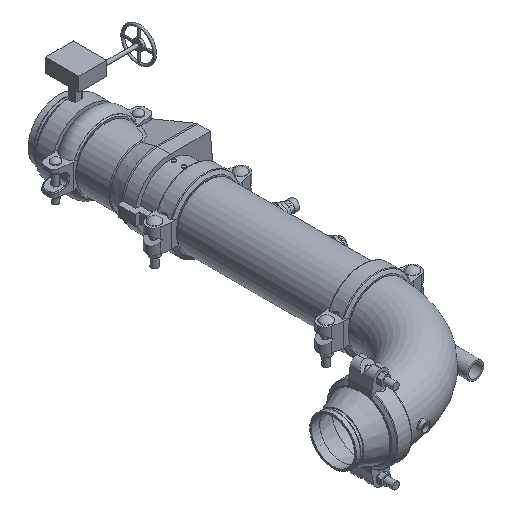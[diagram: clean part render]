
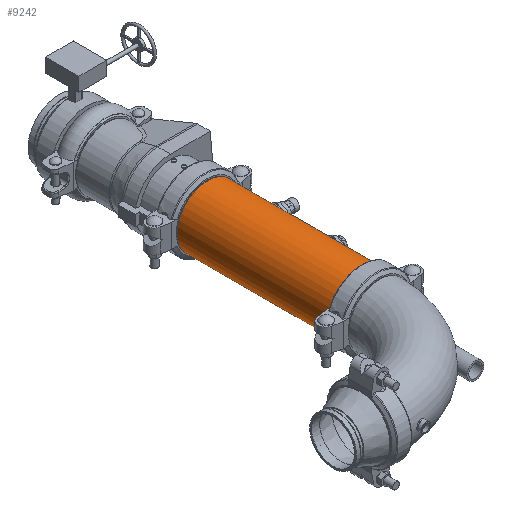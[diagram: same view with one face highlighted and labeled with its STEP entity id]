
A CAD part, isometric view. The second image highlights one B-rep face of the part: STEP entity #9242.
In plain terms, the highlighted cylindrical face has radius 109.537 mm (diameter 219.075 mm), a full revolution.
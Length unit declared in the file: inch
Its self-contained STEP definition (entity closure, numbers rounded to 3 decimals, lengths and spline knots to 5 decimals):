
#306=LINE('',#13931,#970);
#970=VECTOR('',#11093,4.3125);
#1634=CYLINDRICAL_SURFACE('',#9983,4.3125);
#1911=FACE_OUTER_BOUND('',#2429,.T.);
#2429=EDGE_LOOP('',(#5783,#5784,#5785,#5786,#5787,#5788));
#3042=CIRCLE('',#9981,4.3125);
#3043=CIRCLE('',#9982,4.3125);
#3044=CIRCLE('',#9984,4.3125);
#3045=CIRCLE('',#9985,4.3125);
#3547=VERTEX_POINT('',#13922);
#3548=VERTEX_POINT('',#13923);
#3549=VERTEX_POINT('',#13927);
#3550=VERTEX_POINT('',#13928);
#4443=EDGE_CURVE('',#3547,#3548,#3042,.T.);
#4444=EDGE_CURVE('',#3548,#3547,#3043,.T.);
#4445=EDGE_CURVE('',#3549,#3550,#3044,.T.);
#4446=EDGE_CURVE('',#3550,#3549,#3045,.T.);
#4447=EDGE_CURVE('',#3550,#3548,#306,.T.);
#5783=ORIENTED_EDGE('',*,*,#4445,.F.);
#5784=ORIENTED_EDGE('',*,*,#4446,.F.);
#5785=ORIENTED_EDGE('',*,*,#4447,.T.);
#5786=ORIENTED_EDGE('',*,*,#4444,.T.);
#5787=ORIENTED_EDGE('',*,*,#4443,.T.);
#5788=ORIENTED_EDGE('',*,*,#4447,.F.);
#9242=ADVANCED_FACE('',(#1911),#1634,.T.);
#9981=AXIS2_PLACEMENT_3D('',#13924,#11083,#11084);
#9982=AXIS2_PLACEMENT_3D('',#13925,#11085,#11086);
#9983=AXIS2_PLACEMENT_3D('',#13926,#11087,#11088);
#9984=AXIS2_PLACEMENT_3D('',#13929,#11089,#11090);
#9985=AXIS2_PLACEMENT_3D('',#13930,#11091,#11092);
#11083=DIRECTION('center_axis',(1.,0.,0.));
#11084=DIRECTION('ref_axis',(0.,0.,-1.));
#11085=DIRECTION('center_axis',(1.,0.,0.));
#11086=DIRECTION('ref_axis',(0.,0.,-1.));
#11087=DIRECTION('center_axis',(1.,0.,0.));
#11088=DIRECTION('ref_axis',(0.,1.,0.));
#11089=DIRECTION('center_axis',(1.,0.,0.));
#11090=DIRECTION('ref_axis',(0.,0.,-1.));
#11091=DIRECTION('center_axis',(1.,0.,0.));
#11092=DIRECTION('ref_axis',(0.,0.,-1.));
#11093=DIRECTION('',(-1.,0.,0.));
#13922=CARTESIAN_POINT('',(-10.79725,4.3125,0.));
#13923=CARTESIAN_POINT('',(-10.79725,-4.3125,0.));
#13924=CARTESIAN_POINT('Origin',(-10.79725,0.,0.));
#13925=CARTESIAN_POINT('Origin',(-10.79725,0.,0.));
#13926=CARTESIAN_POINT('Origin',(0.,0.,0.));
#13927=CARTESIAN_POINT('',(10.79725,4.3125,0.));
#13928=CARTESIAN_POINT('',(10.79725,-4.3125,0.));
#13929=CARTESIAN_POINT('Origin',(10.79725,0.,0.));
#13930=CARTESIAN_POINT('Origin',(10.79725,0.,0.));
#13931=CARTESIAN_POINT('',(0.,-4.3125,0.));
